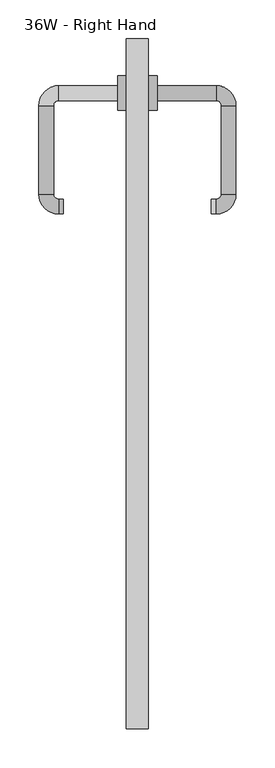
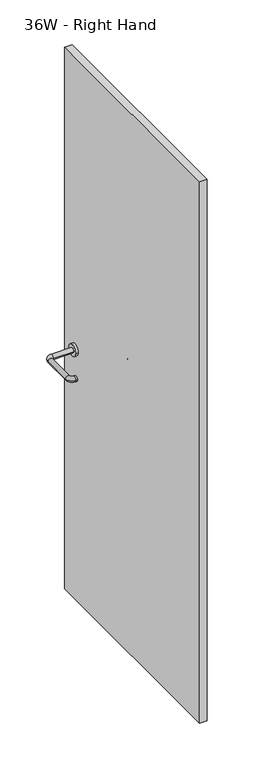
"""IFC4 building model written with IfcOpenShell, lengths in millimetres: furniture geometry, Steelcase - Montage - Door - Hinged Door : 36W - Right Hand."""

from ifc_helpers import new_model, si_unit, point, frame, frame_2d, origin, origin_with_axes, place, context, project, spatial, polyline, circle_curve, ellipse_curve, trimmed, segment, composite_curve, outline, extrude, source, transform, mapped, element, save
from ifc_brep_helpers import plane_surface, cylinder_surface, revolved_surface, advanced_brep


def furniture_36w_right_hand_19197784(model_context):
    return source(origin(), model_context, "Body", "SolidModel", [
        extrude(outline(polyline([(873.1249996, 927.1000015), (901.6999996, 927.1000015), (901.6999996, 38.1000015), (873.1249996, 38.1000015), (873.1249996, 927.1000015)])), origin_with_axes(), (0.0, 0.0, 1.0), 2171.7),
        advanced_brep(
        [(862.0124996, 866.7750013, 1003.3), (862.0124996, 847.7250013, 1003.3), (785.8124938, 866.7750013, 1003.3), (785.8124938, 847.7250013, 1003.3), (779.4624996, 841.375007, 1003.3), (760.4124996, 841.375007, 1003.3), (760.4124996, 727.0749954, 1003.3), (779.4624996, 727.0749954, 1003.3), (785.8124938, 720.7250012, 1003.3), (785.8124938, 701.6750012, 1003.3), (792.1624996, 701.6750012, 1003.3), (792.1624996, 720.7250012, 1003.3)],
        [
            (0, 1, circle_curve(frame((862.0124996, 857.2500013, 1003.3), z_axis=(1.0, 0.0, 0.0), x_axis=(0.0, -1.0, 0.0)), 9.525)),
            (1, 0, circle_curve(frame((862.0124996, 857.2500013, 1003.3), z_axis=(1.0, 0.0, 0.0), x_axis=(0.0, -1.0, 0.0)), 9.525)),
            (0, 2),
            (2, 3, circle_curve(frame((785.8124938, 857.2500013, 1003.3), z_axis=(1.0, 0.0, 0.0), x_axis=(0.0, -1.0, 0.0)), 9.525)),
            (3, 1),
            (3, 2, circle_curve(frame((785.8124938, 857.2500013, 1003.3), z_axis=(1.0, 0.0, 0.0), x_axis=(0.0, -1.0, 0.0)), 9.525)),
            (4, 3, circle_curve(frame((785.8124938, 841.375007, 1003.3), z_axis=(0.0, 0.0, -1.0), x_axis=(0.0, 1.0, 0.0)), 6.3499943)),
            (2, 5, circle_curve(frame((785.8124938, 841.375007, 1003.3), z_axis=(0.0, 0.0, 1.0), x_axis=(0.0, 1.0, 0.0)), 25.3999943)),
            (5, 4, circle_curve(frame((769.9374996, 841.375007, 1003.3), z_axis=(0.0, 1.0, 0.0), x_axis=(1.0, 0.0, 0.0)), 9.525)),
            (4, 5, circle_curve(frame((769.9374996, 841.375007, 1003.3), z_axis=(0.0, 1.0, 0.0), x_axis=(1.0, 0.0, 0.0)), 9.525)),
            (5, 6),
            (6, 7, circle_curve(frame((769.9374996, 727.0749954, 1003.3), z_axis=(0.0, 1.0, 0.0), x_axis=(1.0, 0.0, 0.0)), 9.525)),
            (7, 4),
            (7, 6, circle_curve(frame((769.9374996, 727.0749954, 1003.3), z_axis=(0.0, 1.0, 0.0), x_axis=(1.0, 0.0, 0.0)), 9.525)),
            (8, 7, circle_curve(frame((785.8124938, 727.0749954, 1003.3), z_axis=(0.0, 0.0, -1.0), x_axis=(-1.0, 0.0, 0.0)), 6.3499943)),
            (6, 9, circle_curve(frame((785.8124938, 727.0749954, 1003.3), z_axis=(0.0, 0.0, 1.0), x_axis=(-1.0, 0.0, 0.0)), 25.3999943)),
            (9, 8, circle_curve(frame((785.8124938, 711.2000012, 1003.3), z_axis=(-1.0, 0.0, 0.0), x_axis=(0.0, 1.0, 0.0)), 9.525)),
            (8, 9, circle_curve(frame((785.8124938, 711.2000012, 1003.3), z_axis=(-1.0, 0.0, 0.0), x_axis=(0.0, 1.0, 0.0)), 9.525)),
            (10, 11, circle_curve(frame((792.1624996, 711.2000012, 1003.3), z_axis=(1.0, 0.0, 0.0), x_axis=(0.0, 1.0, 0.0)), 9.525)),
            (11, 10, circle_curve(frame((792.1624996, 711.2000012, 1003.3), z_axis=(1.0, 0.0, 0.0), x_axis=(0.0, 1.0, 0.0)), 9.525)),
            (9, 10),
            (11, 8),
        ],
        [
            plane_surface(frame((862.0124996, 857.2500013, 1003.3), z_axis=(1.0, 0.0, 0.0), x_axis=(0.0, 0.0, 1.0))),
            cylinder_surface(frame((862.0124996, 857.2500013, 1003.3), z_axis=(1.0, 0.0, 0.0), x_axis=(0.0, -1.0, 0.0)), 9.525),
            revolved_surface(trimmed(ellipse_curve(frame((785.8124938, 857.2500013, 1003.3), z_axis=(1.0, 0.0, 0.0), x_axis=(0.0, -1.0, 0.0)), 9.525, 9.525), [point((785.8124938, 866.7750013, 1003.3))], [point((785.8124938, 847.7250013, 1003.3))], True, "CARTESIAN"), (785.8124938, 841.375007, 1003.3), (0.0, 0.0, 1.0)),
            revolved_surface(trimmed(ellipse_curve(frame((785.8124938, 857.2500013, 1003.3), z_axis=(1.0, 0.0, 0.0), x_axis=(0.0, -1.0, 0.0)), 9.525, 9.525), [point((785.8124938, 847.7250013, 1003.3))], [point((785.8124938, 866.7750013, 1003.3))], True, "CARTESIAN"), (785.8124938, 841.375007, 1003.3), (0.0, 0.0, 1.0)),
            cylinder_surface(frame((769.9374996, 841.375007, 1003.3), z_axis=(0.0, 1.0, 0.0), x_axis=(1.0, 0.0, 0.0)), 9.525),
            revolved_surface(trimmed(ellipse_curve(frame((769.9374996, 727.0749954, 1003.3), z_axis=(0.0, 1.0, 0.0), x_axis=(1.0, 0.0, 0.0)), 9.525, 9.525), [point((760.4124996, 727.0749954, 1003.3))], [point((779.4624996, 727.0749954, 1003.3))], True, "CARTESIAN"), (785.8124938, 727.0749954, 1003.3), (0.0, 0.0, 1.0)),
            revolved_surface(trimmed(ellipse_curve(frame((769.9374996, 727.0749954, 1003.3), z_axis=(0.0, 1.0, 0.0), x_axis=(1.0, 0.0, 0.0)), 9.525, 9.525), [point((779.4624996, 727.0749954, 1003.3))], [point((760.4124996, 727.0749954, 1003.3))], True, "CARTESIAN"), (785.8124938, 727.0749954, 1003.3), (0.0, 0.0, 1.0)),
            plane_surface(frame((792.1624996, 711.2000012, 1003.3), z_axis=(1.0, 0.0, 0.0), x_axis=(0.0, 0.0, 1.0))),
            cylinder_surface(frame((785.8124938, 711.2000012, 1003.3), z_axis=(-1.0, 0.0, 0.0), x_axis=(0.0, 1.0, 0.0)), 9.525),
        ],
        [
            (0, [[1, 2]]),
            (1, [[-1, 3, 4, 5]]),
            (1, [[-2, -5, 6, -3]]),
            (2, [[7, -4, 8, 9]]),
            (3, [[-8, -6, -7, 10]]),
            (4, [[-9, 11, 12, 13]]),
            (4, [[-10, -13, 14, -11]]),
            (5, [[15, -12, 16, 17]]),
            (6, [[-16, -14, -15, 18]]),
            (7, [[19, 20]]),
            (8, [[-17, 21, -20, 22]]),
            (8, [[-18, -22, -19, -21]]),
        ],
    ),
        advanced_brep(
        [(912.8124996, 847.7250017, 1003.3), (912.8124996, 866.7750017, 1003.3), (989.0125054, 847.7250017, 1003.3), (989.0125054, 866.7750017, 1003.3), (1014.4125001, 841.375007, 1003.3), (995.3625001, 841.375007, 1003.3), (995.3625001, 727.0749954, 1003.3), (1014.4125001, 727.0749954, 1003.3), (989.0125054, 701.6750007, 1003.3), (989.0125054, 720.7250007, 1003.3), (982.6624996, 720.7250007, 1003.3), (982.6624996, 701.6750007, 1003.3)],
        [
            (0, 1, circle_curve(frame((912.8124996, 857.2500017, 1003.3), z_axis=(-1.0, 0.0, 0.0), x_axis=(0.0, 1.0, 0.0)), 9.525)),
            (1, 0, circle_curve(frame((912.8124996, 857.2500017, 1003.3), z_axis=(-1.0, 0.0, 0.0), x_axis=(0.0, 1.0, 0.0)), 9.525)),
            (0, 2),
            (2, 3, circle_curve(frame((989.0125054, 857.2500017, 1003.3), z_axis=(-1.0, 0.0, 0.0), x_axis=(0.0, 1.0, 0.0)), 9.525)),
            (3, 1),
            (3, 2, circle_curve(frame((989.0125054, 857.2500017, 1003.3), z_axis=(-1.0, 0.0, 0.0), x_axis=(0.0, 1.0, 0.0)), 9.525)),
            (4, 3, circle_curve(frame((989.0125054, 841.375007, 1003.3), z_axis=(0.0, 0.0, 1.0), x_axis=(0.0, 1.0, 0.0)), 25.3999947)),
            (2, 5, circle_curve(frame((989.0125054, 841.375007, 1003.3), z_axis=(0.0, 0.0, -1.0), x_axis=(0.0, 1.0, 0.0)), 6.3499947)),
            (5, 4, circle_curve(frame((1004.8875001, 841.375007, 1003.3), z_axis=(0.0, 1.0, 0.0), x_axis=(1.0, 0.0, 0.0)), 9.525)),
            (4, 5, circle_curve(frame((1004.8875001, 841.375007, 1003.3), z_axis=(0.0, 1.0, 0.0), x_axis=(1.0, 0.0, 0.0)), 9.525)),
            (5, 6),
            (6, 7, circle_curve(frame((1004.8875001, 727.0749954, 1003.3), z_axis=(0.0, 1.0, 0.0), x_axis=(1.0, 0.0, 0.0)), 9.525)),
            (7, 4),
            (7, 6, circle_curve(frame((1004.8875001, 727.0749954, 1003.3), z_axis=(0.0, 1.0, 0.0), x_axis=(1.0, 0.0, 0.0)), 9.525)),
            (8, 7, circle_curve(frame((989.0125054, 727.0749954, 1003.3), z_axis=(0.0, 0.0, 1.0), x_axis=(1.0, 0.0, 0.0)), 25.3999947)),
            (6, 9, circle_curve(frame((989.0125054, 727.0749954, 1003.3), z_axis=(0.0, 0.0, -1.0), x_axis=(1.0, 0.0, 0.0)), 6.3499947)),
            (9, 8, circle_curve(frame((989.0125054, 711.2000007, 1003.3), z_axis=(1.0, 0.0, 0.0), x_axis=(0.0, -1.0, 0.0)), 9.525)),
            (8, 9, circle_curve(frame((989.0125054, 711.2000007, 1003.3), z_axis=(1.0, 0.0, 0.0), x_axis=(0.0, -1.0, 0.0)), 9.525)),
            (10, 11, circle_curve(frame((982.6624996, 711.2000007, 1003.3), z_axis=(-1.0, 0.0, 0.0), x_axis=(0.0, -1.0, 0.0)), 9.525)),
            (11, 10, circle_curve(frame((982.6624996, 711.2000007, 1003.3), z_axis=(-1.0, 0.0, 0.0), x_axis=(0.0, -1.0, 0.0)), 9.525)),
            (9, 10),
            (11, 8),
        ],
        [
            plane_surface(frame((912.8124996, 857.2500017, 1003.3), z_axis=(-1.0, 0.0, 0.0), x_axis=(0.0, 0.0, 1.0))),
            cylinder_surface(frame((912.8124996, 857.2500017, 1003.3), z_axis=(-1.0, 0.0, 0.0), x_axis=(0.0, 1.0, 0.0)), 9.525),
            revolved_surface(trimmed(ellipse_curve(frame((989.0125054, 857.2500017, 1003.3), z_axis=(-1.0, 0.0, 0.0), x_axis=(0.0, 1.0, 0.0)), 9.525, 9.525), [point((989.0125054, 847.7250017, 1003.3))], [point((989.0125054, 866.7750017, 1003.3))], True, "CARTESIAN"), (989.0125054, 841.375007, 1003.3), (0.0, 0.0, -1.0)),
            revolved_surface(trimmed(ellipse_curve(frame((989.0125054, 857.2500017, 1003.3), z_axis=(-1.0, 0.0, 0.0), x_axis=(0.0, 1.0, 0.0)), 9.525, 9.525), [point((989.0125054, 866.7750017, 1003.3))], [point((989.0125054, 847.7250017, 1003.3))], True, "CARTESIAN"), (989.0125054, 841.375007, 1003.3), (0.0, 0.0, -1.0)),
            cylinder_surface(frame((1004.8875001, 841.375007, 1003.3), z_axis=(0.0, 1.0, 0.0), x_axis=(1.0, 0.0, 0.0)), 9.525),
            revolved_surface(trimmed(ellipse_curve(frame((1004.8875001, 727.0749954, 1003.3), z_axis=(0.0, 1.0, 0.0), x_axis=(1.0, 0.0, 0.0)), 9.525, 9.525), [point((995.3625001, 727.0749954, 1003.3))], [point((1014.4125001, 727.0749954, 1003.3))], True, "CARTESIAN"), (989.0125054, 727.0749954, 1003.3), (0.0, 0.0, -1.0)),
            revolved_surface(trimmed(ellipse_curve(frame((1004.8875001, 727.0749954, 1003.3), z_axis=(0.0, 1.0, 0.0), x_axis=(1.0, 0.0, 0.0)), 9.525, 9.525), [point((1014.4125001, 727.0749954, 1003.3))], [point((995.3625001, 727.0749954, 1003.3))], True, "CARTESIAN"), (989.0125054, 727.0749954, 1003.3), (0.0, 0.0, -1.0)),
            plane_surface(frame((982.6624996, 711.2000007, 1003.3), z_axis=(-1.0, 0.0, 0.0), x_axis=(0.0, 0.0, 1.0))),
            cylinder_surface(frame((989.0125054, 711.2000007, 1003.3), z_axis=(1.0, 0.0, 0.0), x_axis=(0.0, -1.0, 0.0)), 9.525),
        ],
        [
            (0, [[1, 2]]),
            (1, [[-1, 3, 4, 5]]),
            (1, [[-2, -5, 6, -3]]),
            (2, [[7, -4, 8, 9]]),
            (3, [[-8, -6, -7, 10]]),
            (4, [[-9, 11, 12, 13]]),
            (4, [[-10, -13, 14, -11]]),
            (5, [[15, -12, 16, 17]]),
            (6, [[-16, -14, -15, 18]]),
            (7, [[19, 20]]),
            (8, [[-17, 21, -20, 22]]),
            (8, [[-18, -22, -19, -21]]),
        ],
    ),
        extrude(outline(composite_curve([segment(trimmed(circle_curve(frame_2d((857.2500015, 1003.3)), 22.2250002), [point((835.0250012, 1003.3))], [point((879.4750017, 1003.3))], False, "CARTESIAN"), True, "CONTINUOUS"), segment(trimmed(circle_curve(frame_2d((857.2500015, 1003.3)), 22.2250002), [point((879.4750017, 1003.3))], [point((835.0250012, 1003.3))], False, "CARTESIAN"), True, "CONTINUOUS")], self_intersect=False)), frame((901.6999996, 0.0, 0.0), z_axis=(1.0, 0.0, 0.0), x_axis=(0.0, 1.0, 0.0)), (0.0, 0.0, 1.0), 11.176),
        extrude(outline(composite_curve([segment(trimmed(circle_curve(frame_2d((857.2500015, 1003.3)), 22.2250002), [point((835.0250012, 1003.3))], [point((879.4750017, 1003.3))], False, "CARTESIAN"), True, "CONTINUOUS"), segment(trimmed(circle_curve(frame_2d((857.2500015, 1003.3)), 22.2250002), [point((879.4750017, 1003.3))], [point((835.0250012, 1003.3))], False, "CARTESIAN"), True, "CONTINUOUS")], self_intersect=False)), frame((861.9489996, 0.0, 0.0), z_axis=(1.0, 0.0, 0.0), x_axis=(0.0, 1.0, 0.0)), (0.0, 0.0, 1.0), 11.176),
    ])


if __name__ == "__main__":
    model = new_model("IFC4")
    model_context = context("Model", 3, world=origin())
    ifc_project = project(units=[si_unit("LENGTHUNIT", "METRE", prefix="MILLI")], contexts=[model_context])
    site = spatial("IfcSite", under=ifc_project)
    building = spatial("IfcBuilding", under=site)
    placement = place(None, origin())
    furniture_36w_right_hand_shape = furniture_36w_right_hand_19197784(model_context)
    element("IfcFurniture", 1, ObjectType="Steelcase - Montage - Door - Hinged Door : 36W - Right Hand", at=placement, inside=building, context=model_context, shape_type="MappedRepresentation", body=[
        mapped(furniture_36w_right_hand_shape, transform((0.0, 0.0, 0.0), x_axis=(1.0, 0.0, 0.0), y_axis=(0.0, 1.0, 0.0), z_axis=(0.0, 0.0, 1.0))),
    ])
    save(model, "model.ifc")
